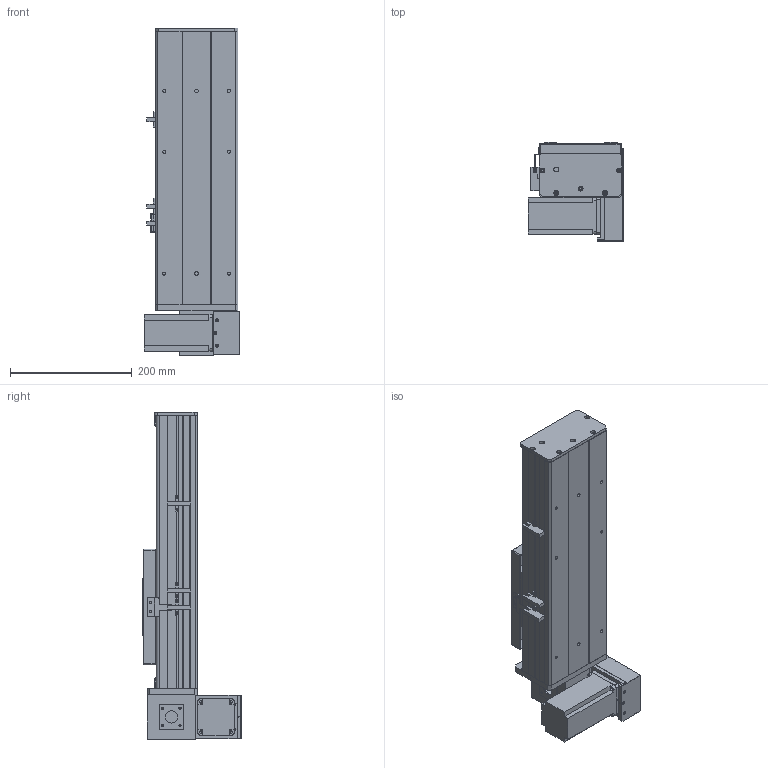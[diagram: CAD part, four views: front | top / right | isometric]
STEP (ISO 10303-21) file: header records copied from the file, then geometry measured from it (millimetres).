
FILE_DESCRIPTION (( 'STEP AP203' ), '1' );
FILE_NAME ('Y135CB-D90-S150-BM-P400W.STEP', '2020-02-18T09:05:32', ( '微软用户' ), ( '微软中国' ), 'SwSTEP 2.0', 'SolidWorks 2017', '' );
FILE_SCHEMA (( 'CONFIG_CONTROL_DESIGN' ));
Length unit declared in the file: millimetre
Products named in the file (18): C-雄赽釱--; 0B-萇儂楊擘啣; Y10B--々湍喘謫眊--666; san松下电机400不带刹车----; 00B-俋欶BM--; 5CB --掛极耜裔啣-; Y10B-耜蚾蟀諉啣----; C-詩湍揤踡え-陔; Y135CB-耜裔; Y135CB-D90-S150-BM-P400W; 135CB--詩湍-CE; 135CB---遴掛极.-; Y100-135俋离換覜ん--; 35CB---喘謫眊楊擘啣; Y135C-陔俋离換覜結え-; 0B-埴倛裔啣; 5C--俋欶; 0B-源倛裔啣
Assembly tree (21 placements, depth 2):
  Y135CB-D90-S150-BM-P400W
    Y135CB-耜裔
    135CB---遴掛极.-
    35CB---喘謫眊楊擘啣
    0B-埴倛裔啣
    0B-源倛裔啣
    0B-萇儂楊擘啣
    san松下电机400不带刹车----
    5CB --掛极耜裔啣-  x2
    C-詩湍揤踡え-陔  x2
    135CB--詩湍-CE
    Y100-135俋离換覜ん--  x3
    Y135C-陔俋离換覜結え-
    5C--俋欶
    C-雄赽釱--
    Y10B--々湍喘謫眊--666
    00B-俋欶BM--
    Y10B-耜蚾蟀諉啣----
Bounding box: 157 x 163.3 x 538 mm (x, y, z)
Volume: 2179021.2 mm3; surface area: 830102 mm2
Topology: 21 solids, 21 shells, 929 faces, 2455 edges, 1626 vertices
Faces by surface type: cylinder 457, plane 456, cone 16
Entity records: 28541 total; most frequent: DIRECTION 4739, CARTESIAN_POINT 4636, ORIENTED_EDGE 4386, EDGE_CURVE 2193, AXIS2_PLACEMENT_3D 1721, VERTEX_POINT 1454, LINE 1297, VECTOR 1297
